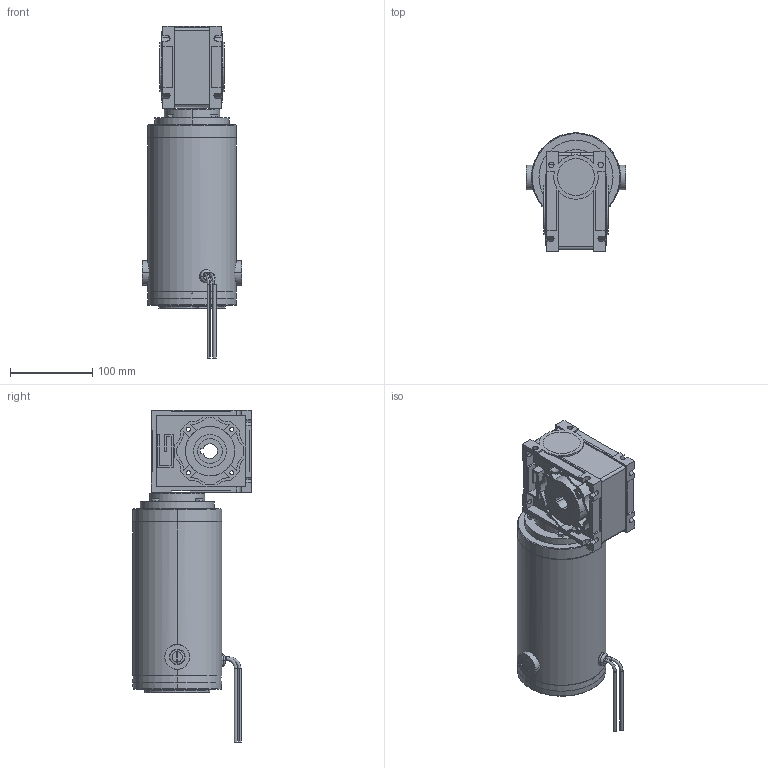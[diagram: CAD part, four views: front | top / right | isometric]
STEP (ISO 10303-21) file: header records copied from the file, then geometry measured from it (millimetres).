
FILE_DESCRIPTION (( 'STEP AP203' ), '1' );
FILE_NAME ('PM10818-RA4000T.STEP', '2008-06-30T18:18:07', ( 'eng-rjs' ), ( 'groschopp' ), 'SwSTEP 2.0', 'SolidWorks 2008', '' );
FILE_SCHEMA (( 'CONFIG_CONTROL_DESIGN' ));
Length unit declared in the file: inch
Products named in the file (1): PM10818-RA4000T
Bounding box: 121.18 x 144.05 x 403.72 mm (x, y, z)
Surface area: 214381.5 mm2 (no closed solid volume)
Topology: 0 solids, 24 shells, 538 faces, 1630 edges, 1101 vertices
Faces by surface type: plane 220, cylinder 177, cone 67, torus 46, bspline 28
Entity records: 20143 total; most frequent: CARTESIAN_POINT 5358, DIRECTION 3200, ORIENTED_EDGE 2878, EDGE_CURVE 1630, AXIS2_PLACEMENT_3D 1210, VERTEX_POINT 1101, VECTOR 780, LINE 780
